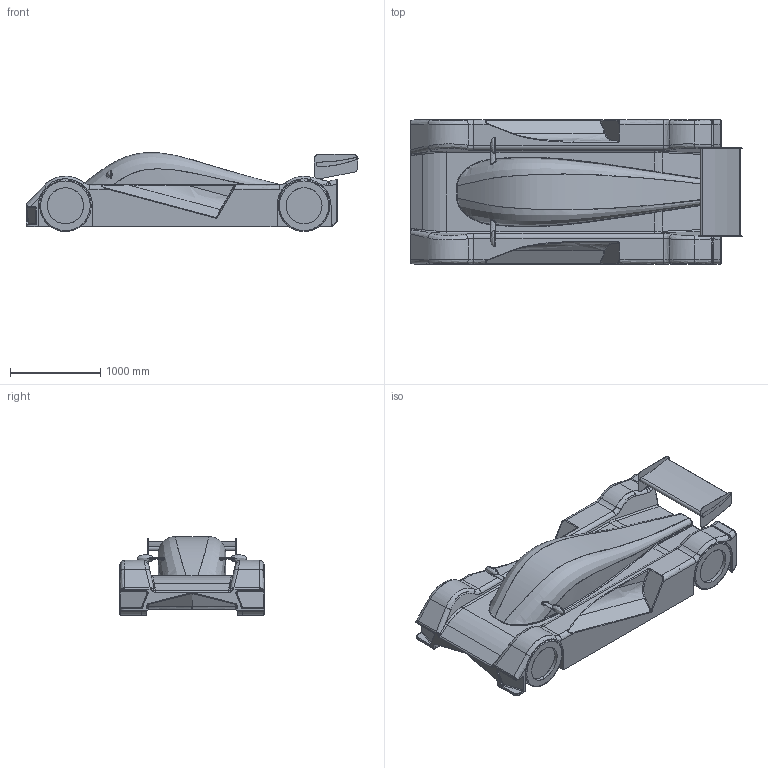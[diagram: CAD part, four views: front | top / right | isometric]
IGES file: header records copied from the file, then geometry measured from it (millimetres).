
Start section: SolidWorks IGES file using analytic representation for surfaces
Global section: file name: C:\Users\HUSSAM KAMEL\Desktop\grrrrrab\Test.IGS; native system: SolidWorks 2011; preprocessor: SolidWorks 2011; author: HUSSAM KAMEL; date: 121007.000508; units: millimetre
Bounding box: 3687.76 x 1600 x 875.6 mm (x, y, z)
Surface area: 23955580.7 mm2 (no closed solid volume)
Topology: 0 solids, 0 shells, 496 faces, 7127 edges, 7122 vertices
Faces by surface type: bspline 318, revolution 178
